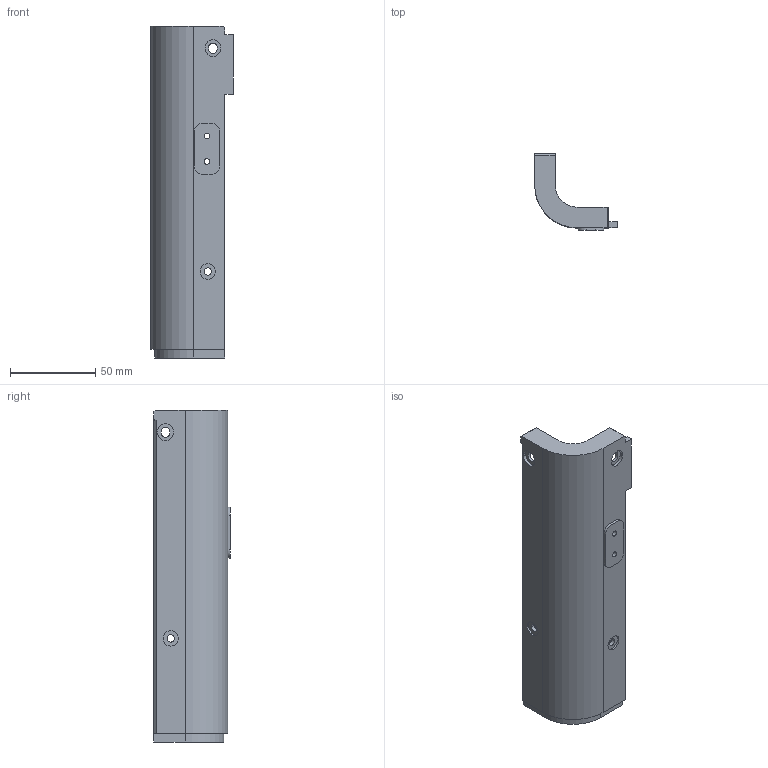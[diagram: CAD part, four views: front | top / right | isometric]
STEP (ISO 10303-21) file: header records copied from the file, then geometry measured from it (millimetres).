
FILE_DESCRIPTION (( 'STEP AP214' ), '1' );
FILE_NAME ('誘啣B1.STEP', '2024-01-02T07:30:29', ( '' ), ( '' ), 'SwSTEP 2.0', 'SolidWorks 2014', '' );
FILE_SCHEMA (( 'AUTOMOTIVE_DESIGN' ));
Length unit declared in the file: millimetre
Products named in the file (1): 誘啣B1
Bounding box: 48.5 x 45 x 194.75 mm (x, y, z)
Volume: 51412.6 mm3; surface area: 32447.1 mm2
Topology: 1 solids, 1 shells, 125 faces, 326 edges, 217 vertices
Faces by surface type: plane 78, cylinder 37, bspline 10
Entity records: 4418 total; most frequent: CARTESIAN_POINT 1271, ORIENTED_EDGE 652, DIRECTION 614, EDGE_CURVE 326, VECTOR 230, LINE 230, VERTEX_POINT 217, AXIS2_PLACEMENT_3D 192
